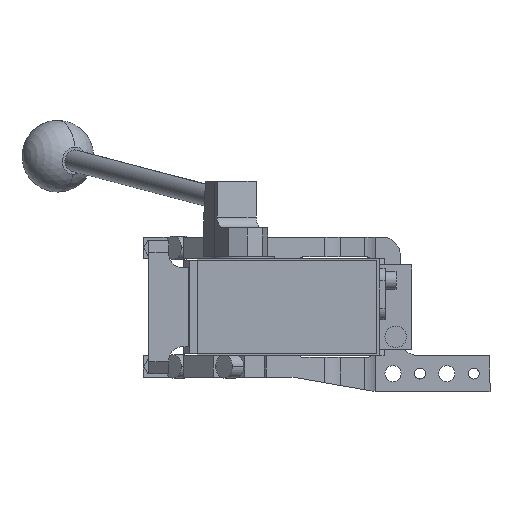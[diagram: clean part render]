
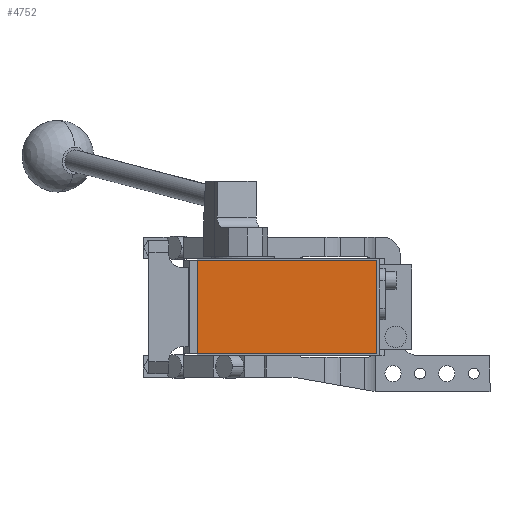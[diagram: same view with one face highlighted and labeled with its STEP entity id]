
A CAD part, front view. The second image highlights one B-rep face of the part: STEP entity #4752.
In plain terms, the highlighted planar face has unit normal (0, -1, 0).
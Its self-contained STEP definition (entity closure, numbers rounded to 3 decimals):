
#67 = DIRECTION ( 'NONE',  ( 0., 0., -1. ) ) ;
#311 = CARTESIAN_POINT ( 'NONE',  ( -19., -286.5, 26. ) ) ;
#529 = AXIS2_PLACEMENT_3D ( 'NONE', #4415, #603, #6814 ) ;
#570 = CARTESIAN_POINT ( 'NONE',  ( 81., -286.5, -26. ) ) ;
#603 = DIRECTION ( 'NONE',  ( 0., -1., 0. ) ) ;
#688 = FACE_OUTER_BOUND ( 'NONE', #3406, .T. ) ;
#768 = CARTESIAN_POINT ( 'NONE',  ( -19., -286.5, -26. ) ) ;
#1758 = PLANE ( 'NONE',  #529 ) ;
#1929 = VERTEX_POINT ( 'NONE', #311 ) ;
#2080 = DIRECTION ( 'NONE',  ( 1., 0., 0. ) ) ;
#2111 = ORIENTED_EDGE ( 'NONE', *, *, #13566, .T. ) ;
#2294 = VECTOR ( 'NONE', #2080, 1000. ) ;
#3196 = EDGE_CURVE ( 'NONE', #1929, #4986, #7745, .T. ) ;
#3316 = CARTESIAN_POINT ( 'NONE',  ( 81., -286.5, 26. ) ) ;
#3406 = EDGE_LOOP ( 'NONE', ( #8736, #5871, #8718, #2111 ) ) ;
#3605 = CARTESIAN_POINT ( 'NONE',  ( 81., -286.5, 26. ) ) ;
#3945 = EDGE_CURVE ( 'NONE', #7365, #10558, #7110, .T. ) ;
#4415 = CARTESIAN_POINT ( 'NONE',  ( 0., -286.5, 0. ) ) ;
#4752 = ADVANCED_FACE ( 'NONE', ( #688 ), #1758, .T. ) ;
#4986 = VERTEX_POINT ( 'NONE', #14908 ) ;
#5871 = ORIENTED_EDGE ( 'NONE', *, *, #10557, .T. ) ;
#6814 = DIRECTION ( 'NONE',  ( 0., 0., -1. ) ) ;
#7110 = LINE ( 'NONE', #3605, #13121 ) ;
#7365 = VERTEX_POINT ( 'NONE', #570 ) ;
#7745 = LINE ( 'NONE', #10231, #15205 ) ;
#8718 = ORIENTED_EDGE ( 'NONE', *, *, #3945, .T. ) ;
#8736 = ORIENTED_EDGE ( 'NONE', *, *, #3196, .T. ) ;
#8795 = VECTOR ( 'NONE', #14541, 1000. ) ;
#9581 = LINE ( 'NONE', #16007, #8795 ) ;
#10231 = CARTESIAN_POINT ( 'NONE',  ( -19., -286.5, 26. ) ) ;
#10557 = EDGE_CURVE ( 'NONE', #4986, #7365, #10838, .T. ) ;
#10558 = VERTEX_POINT ( 'NONE', #3316 ) ;
#10838 = LINE ( 'NONE', #768, #2294 ) ;
#10883 = DIRECTION ( 'NONE',  ( 0., 0., 1. ) ) ;
#13121 = VECTOR ( 'NONE', #10883, 1000. ) ;
#13566 = EDGE_CURVE ( 'NONE', #10558, #1929, #9581, .T. ) ;
#14541 = DIRECTION ( 'NONE',  ( -1., 0., 0. ) ) ;
#14908 = CARTESIAN_POINT ( 'NONE',  ( -19., -286.5, -26. ) ) ;
#15205 = VECTOR ( 'NONE', #67, 1000. ) ;
#16007 = CARTESIAN_POINT ( 'NONE',  ( -19., -286.5, 26. ) ) ;
